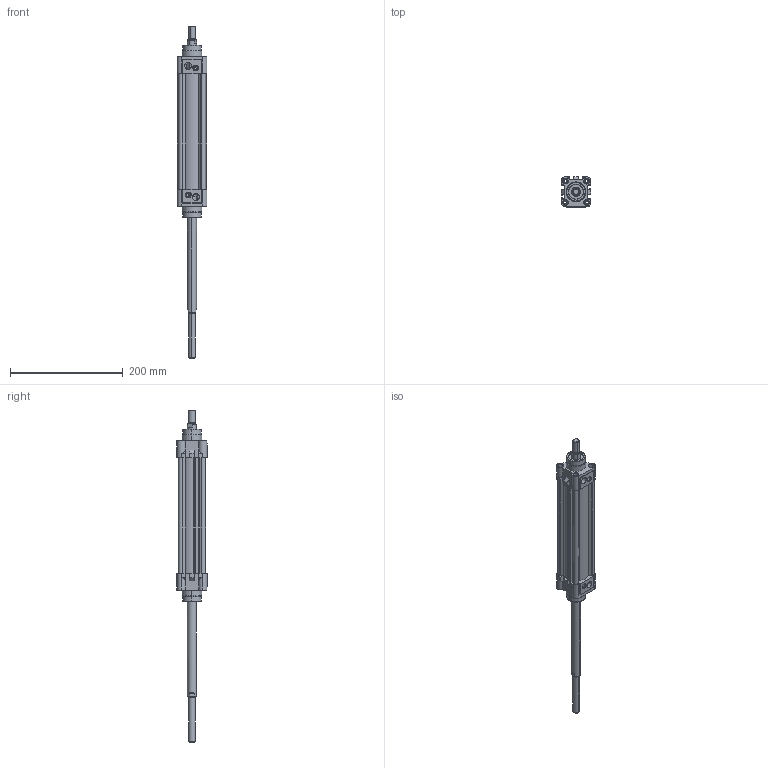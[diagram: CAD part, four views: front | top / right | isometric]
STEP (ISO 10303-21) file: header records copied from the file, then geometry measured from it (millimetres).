
FILE_DESCRIPTION (( 'STEP AP203' ), '1' );
FILE_NAME ('KDNT40X160CIFTMILLI-STROK AYARLI-CYLINDER.STEP', '2016-03-24T11:55:16', ( 'user' ), ( '' ), 'SwSTEP 2.0', 'SolidWorks 2013', '' );
FILE_SCHEMA (( 'CONFIG_CONTROL_DESIGN' ));
Length unit declared in the file: millimetre
Products named in the file (6): 烰 KAPAK  40; KDNT 40X160 BORU; ORTA PÝSTON 40 Çift Milli; PÝSTON MÝLÝ 40X160; Saplama Mili STROK AYARLI 40X160 STROK; KDNT40X160CIFTMILLI-STROK AYARLI-CYLINDER
Assembly tree (6 placements, depth 2):
  KDNT40X160CIFTMILLI-STROK AYARLI-CYLINDER
    烰 KAPAK  40  x2
    KDNT 40X160 BORU
    ORTA PÝSTON 40 Çift Milli
    PÝSTON MÝLÝ 40X160
    Saplama Mili STROK AYARLI 40X160 STROK
Bounding box: 53.06 x 53.36 x 589.1 mm (x, y, z)
Volume: 389654 mm3; surface area: 181074.6 mm2
Topology: 6 solids, 6 shells, 712 faces, 1724 edges, 1076 vertices
Faces by surface type: cylinder 322, plane 210, cone 112, bspline 54, torus 14
Entity records: 16497 total; most frequent: CARTESIAN_POINT 4805, DIRECTION 2340, ORIENTED_EDGE 2302, EDGE_CURVE 1151, AXIS2_PLACEMENT_3D 917, VERTEX_POINT 725, EDGE_LOOP 544, LINE 506
